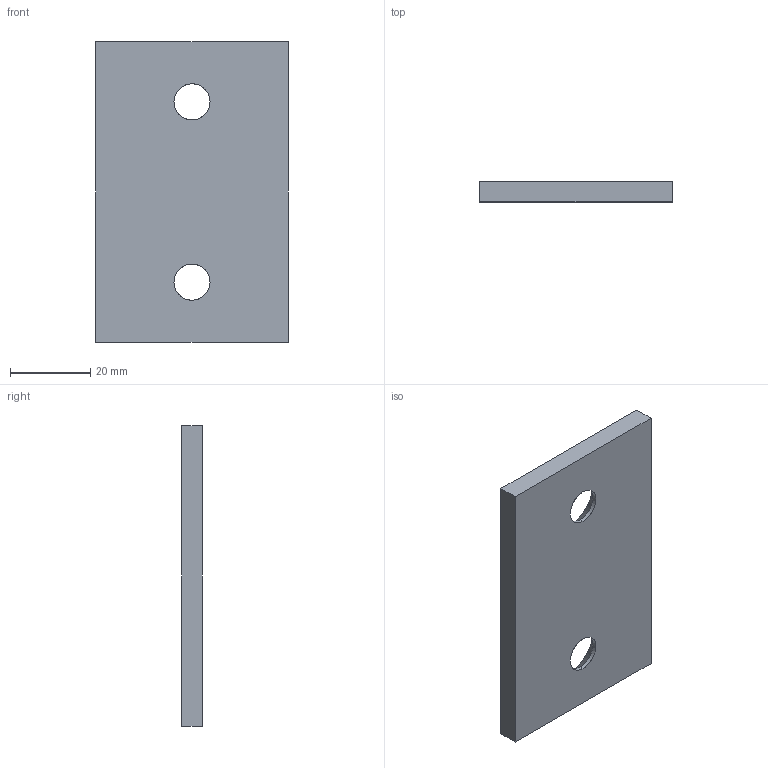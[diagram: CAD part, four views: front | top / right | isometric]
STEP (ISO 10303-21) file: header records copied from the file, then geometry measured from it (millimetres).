
FILE_DESCRIPTION(('CATIA V5 STEP Exchange'),'2;1');
FILE_NAME('C:\Users\Utente\Desktop\3D files A605\A605-048-075.stp','2020-04-13T15:44:18+00:00',('none'),('none'),'CATIA Version 5 Release 20 GA (IN-10)','CATIA V5 STEP AP203','none');
FILE_SCHEMA(('CONFIG_CONTROL_DESIGN'));
Length unit declared in the file: millimetre
Products named in the file (1): Noname
Bounding box: 48 x 5 x 75 mm (x, y, z)
Surface area: 8367.4 mm2 (no closed solid volume)
Topology: 0 solids, 10 shells, 14 faces, 56 edges, 48 vertices
Faces by surface type: extrusion 6, cylinder 4, revolution 4
Entity records: 726 total; most frequent: CARTESIAN_POINT 233, DIRECTION 66, ORIENTED_EDGE 64, EDGE_CURVE 56, VERTEX_POINT 48, VECTOR 38, LINE 32, AXIS2_PLACEMENT_3D 21
